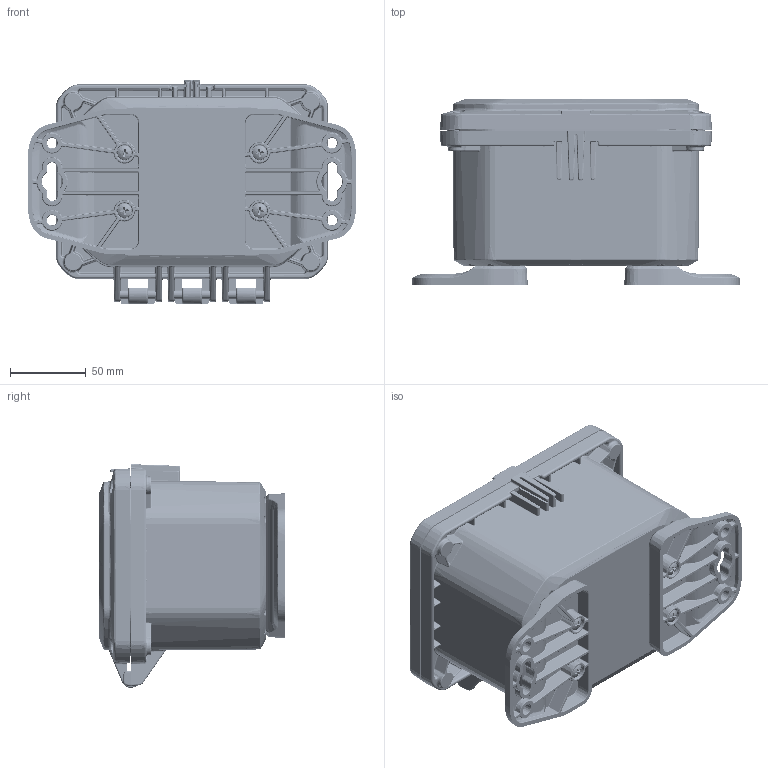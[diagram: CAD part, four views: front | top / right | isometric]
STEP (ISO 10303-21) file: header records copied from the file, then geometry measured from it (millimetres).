
FILE_DESCRIPTION (( 'STEP AP214' ), '1' );
FILE_NAME ('ZH-060404-38.STEP', '2024-10-25T16:25:31', ( '' ), ( '' ), 'SwSTEP 2.0', 'SolidWorks 2024', '' );
FILE_SCHEMA (( 'AUTOMOTIVE_DESIGN' ));
Products named in the file (11): SCREWS-046_SCREWS-046; Z_-06041C_ZH-06041C-02; Z_-06041CG_ZH-06041CG-02; ZH-04F_ZH-04F-01; LABEL-104; INSERTS-4; ZH-0604G; ZH-060404-38; SCREWS-047_default; Z_-06043B_ZH-06043B-01; Z_-06043BI_ZH-06043BI-01
Assembly tree (28 placements, depth 3):
  ZH-060404-38
    Z_-06043BI_ZH-06043BI-01
      Z_-06043B_ZH-06043B-01
      INSERTS-4  x12
      LABEL-104
    Z_-06041CG_ZH-06041CG-02
      Z_-06041C_ZH-06041C-02
      ZH-0604G
    SCREWS-046_SCREWS-046  x4
    ZH-04F_ZH-04F-01  x2
    SCREWS-047_default  x4
Bounding box: 215.9 x 122.68 x 147.19 mm (x, y, z)
Volume: 538087.6 mm3; surface area: 318856.4 mm2
Topology: 26 solids, 26 shells, 7192 faces, 17687 edges, 10546 vertices
Faces by surface type: bspline 1993, cylinder 1666, plane 1375, cone 1158, torus 794, sphere 206
Entity records: 243445 total; most frequent: CARTESIAN_POINT 141897, ORIENTED_EDGE 23350, DIRECTION 18991, EDGE_CURVE 11675, AXIS2_PLACEMENT_3D 8009, VERTEX_POINT 6809, EDGE_LOOP 5092, ADVANCED_FACE 4970
